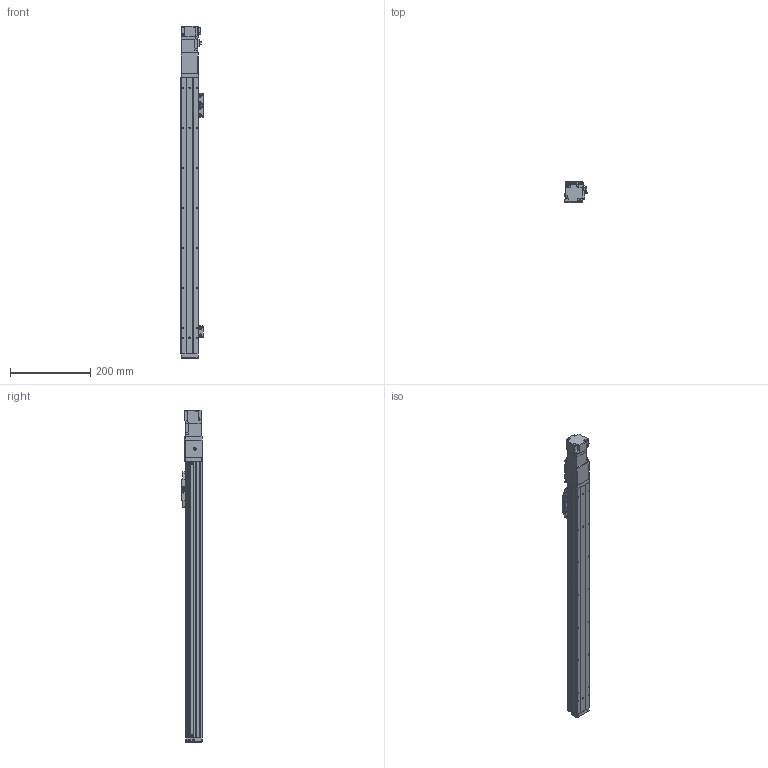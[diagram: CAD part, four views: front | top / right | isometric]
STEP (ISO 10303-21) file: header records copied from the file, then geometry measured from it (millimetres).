
FILE_DESCRIPTION (( 'STEP AP203' ), '1' );
FILE_NAME ('GTH4-550-BC-M05-C4.step', '2023-08-28T00:39:34', ( '微软用户' ), ( '微软中国' ), 'SwSTEP 2.0', 'SolidWorks 2020', '' );
FILE_SCHEMA (( 'CONFIG_CONTROL_DESIGN' ));
Length unit declared in the file: millimetre
Products named in the file (19): HG-KR13; BTH40-003; GBT 70.1-M3℅6; GBT 70.3-M3℅6; BTH40-006; GBT96.1-2002 3×0.8; BTH40-017_笢俶; BTH-M3X5X6; BTH40-022; BTH40-005-1; GBT70.1-2000 M3×16; GBT 70.1-M2.5×6; GTH4-550-BC-M05-C4; BTH50-028; BTH40-004; BTH50-023; BTH40-013; BTH40-001-50_BTH40-001-550; BTH50-024
Assembly tree (49 placements, depth 2):
  GTH4-550-BC-M05-C4
    BTH40-001-50_BTH40-001-550
    BTH40-003
    BTH40-006
    BTH-M3X5X6  x10
    GBT70.1-2000 M3×16  x4
    BTH50-028  x2
    BTH50-023  x3
    BTH50-024  x3
    GBT 70.1-M3℅6  x6
    GBT96.1-2002 3×0.8  x6
    BTH40-022
    GBT 70.1-M2.5×6  x2
    BTH40-004
    BTH40-013
    HG-KR13
    GBT 70.3-M3℅6  x4
    BTH40-017_笢俶
    BTH40-005-1
Bounding box: 55.2 x 52 x 829.4 mm (x, y, z)
Volume: 1286619.9 mm3; surface area: 236601.5 mm2
Topology: 51 solids, 51 shells, 1868 faces, 4386 edges, 2710 vertices
Faces by surface type: plane 1026, cylinder 469, cone 237, torus 132, sphere 4
Entity records: 34440 total; most frequent: DIRECTION 5573, CARTESIAN_POINT 5571, ORIENTED_EDGE 5234, EDGE_CURVE 2617, AXIS2_PLACEMENT_3D 1875, VECTOR 1823, LINE 1823, VERTEX_POINT 1641
